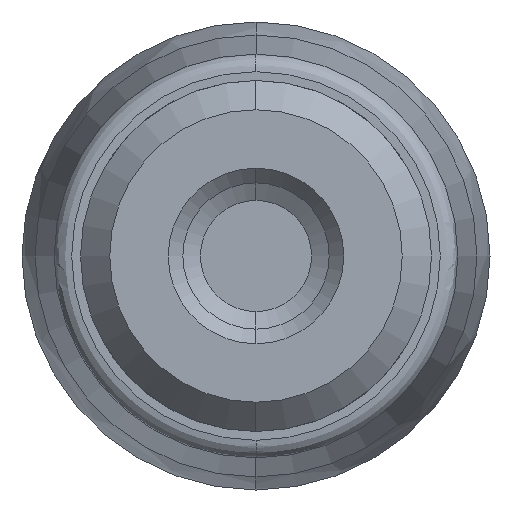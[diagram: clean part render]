
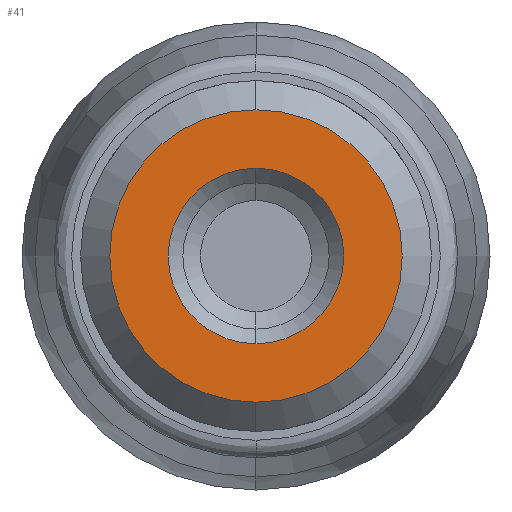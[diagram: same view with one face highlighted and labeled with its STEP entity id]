
A CAD part, left-side view. The second image highlights one B-rep face of the part: STEP entity #41.
In plain terms, the highlighted planar face has unit normal (-1, 0, 0).
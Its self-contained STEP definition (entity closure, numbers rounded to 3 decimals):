
#41=ADVANCED_FACE('',(#98,#99),#97,.F.);
#97=PLANE('',#561);
#98=FACE_OUTER_BOUND('',#562,.T.);
#99=FACE_BOUND('',#563,.T.);
#558=CARTESIAN_POINT('',(-25.5,-5.196,3.25));
#559=DIRECTION('',(1.,0.,0.));
#560=DIRECTION('',(0.,0.,-1.));
#561=AXIS2_PLACEMENT_3D('',#558,#559,#560);
#562=EDGE_LOOP('',(#1008,#1009));
#563=EDGE_LOOP('',(#1010,#1011));
#1008=ORIENTED_EDGE('',*,*,#1196,.T.);
#1009=ORIENTED_EDGE('',*,*,#1197,.T.);
#1010=ORIENTED_EDGE('',*,*,#1198,.F.);
#1011=ORIENTED_EDGE('',*,*,#1199,.F.);
#1196=EDGE_CURVE('',#1314,#1315,#1316,.T.);
#1197=EDGE_CURVE('',#1315,#1314,#1322,.T.);
#1198=EDGE_CURVE('',#1328,#1329,#1330,.T.);
#1199=EDGE_CURVE('',#1329,#1328,#1336,.T.);
#1314=VERTEX_POINT('',#1926);
#1315=VERTEX_POINT('',#1927);
#1316=CIRCLE('',#1931,2.5);
#1322=CIRCLE('',#1935,2.5);
#1328=VERTEX_POINT('',#1936);
#1329=VERTEX_POINT('',#1937);
#1330=CIRCLE('',#1941,1.5);
#1336=CIRCLE('',#1945,1.5);
#1926=CARTESIAN_POINT('',(-25.5,0.,2.5));
#1927=CARTESIAN_POINT('',(-25.5,0.,-2.5));
#1928=CARTESIAN_POINT('',(-25.5,0.,0.));
#1929=DIRECTION('',(-1.,0.,0.));
#1930=DIRECTION('',(0.,0.,1.));
#1931=AXIS2_PLACEMENT_3D('',#1928,#1929,#1930);
#1932=CARTESIAN_POINT('',(-25.5,0.,0.));
#1933=DIRECTION('',(-1.,0.,0.));
#1934=DIRECTION('',(0.,0.,1.));
#1935=AXIS2_PLACEMENT_3D('',#1932,#1933,#1934);
#1936=CARTESIAN_POINT('',(-25.5,0.,-1.5));
#1937=CARTESIAN_POINT('',(-25.5,0.,1.5));
#1938=CARTESIAN_POINT('',(-25.5,0.,0.));
#1939=DIRECTION('',(-1.,0.,0.));
#1940=DIRECTION('',(0.,0.,1.));
#1941=AXIS2_PLACEMENT_3D('',#1938,#1939,#1940);
#1942=CARTESIAN_POINT('',(-25.5,0.,0.));
#1943=DIRECTION('',(-1.,0.,0.));
#1944=DIRECTION('',(0.,0.,1.));
#1945=AXIS2_PLACEMENT_3D('',#1942,#1943,#1944);
